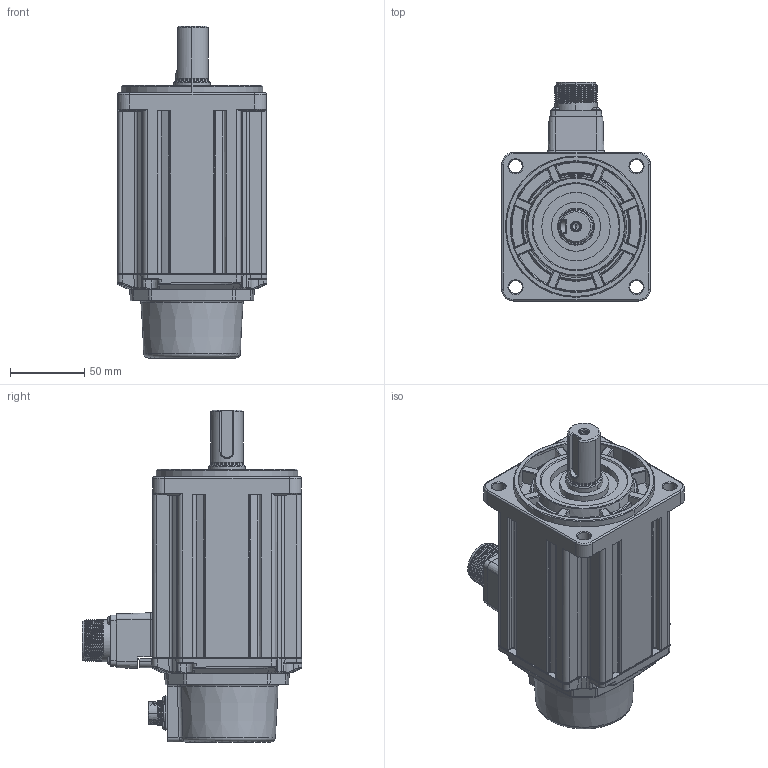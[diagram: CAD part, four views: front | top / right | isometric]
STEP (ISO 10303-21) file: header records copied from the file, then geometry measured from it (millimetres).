
FILE_DESCRIPTION((''),'2;1');
FILE_NAME('ECM-B3M-XB1020RS1_20241017_ASM','2024-12-27T20:23:08',('HUICHUN.CHU'),(''),'CREO PARAMETRIC BY PTC INC, 2020454','CREO PARAMETRIC BY PTC INC, 2020454','');
FILE_SCHEMA(('CONFIG_CONTROL_DESIGN','SHAPE_APPEARANCE_LAYERS_GROUPS'));
Products named in the file (2): _ECM-B3M-XB1020RS1_20241017; ECM-B3M-XB1020RS1_20241017_ASM
Assembly tree (1 placements, depth 2):
  ECM-B3M-XB1020RS1_20241017_ASM
    _ECM-B3M-XB1020RS1_20241017
Bounding box: 100.74 x 147.77 x 223.3 mm (x, y, z)
Surface area: 178207.9 mm2
Topology: 3 solids, 11 shells, 3824 faces, 10602 edges, 6825 vertices
Faces by surface type: plane 1950, cylinder 933, cone 474, torus 160, bspline 156, sphere 76, extrusion 75
Entity records: 166476 total; most frequent: CARTESIAN_POINT 36913, ORIENTED_EDGE 20545, DIRECTION 19114, EDGE_CURVE 10512, PRESENTATION_STYLE_ASSIGNMENT 8852, STYLED_ITEM 7680, CURVE_STYLE 7153, VERTEX_POINT 6822
